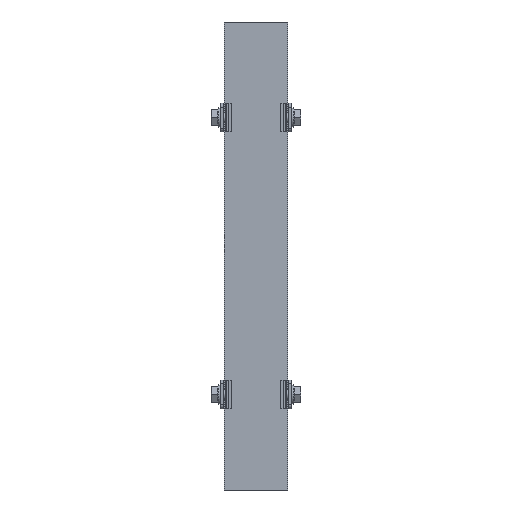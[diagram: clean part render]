
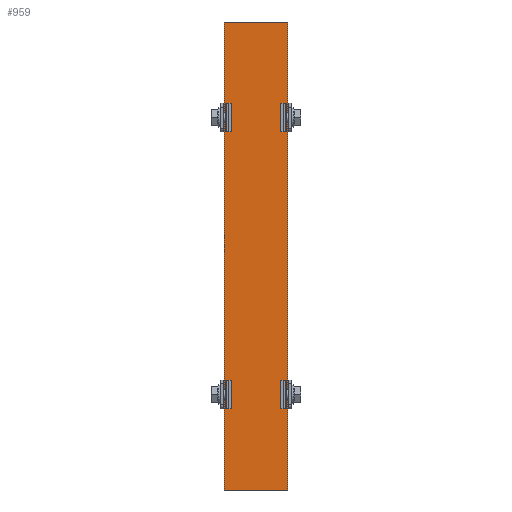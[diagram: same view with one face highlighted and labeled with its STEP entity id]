
A CAD part, front view. The second image highlights one B-rep face of the part: STEP entity #959.
In plain terms, the highlighted planar face has unit normal (0, -1, 0).
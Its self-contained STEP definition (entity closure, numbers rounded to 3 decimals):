
#86=DIRECTION('',(0.,0.,1.));
#87=VECTOR('',#86,245.);
#88=CARTESIAN_POINT('',(-16.6,0.,-122.5));
#89=LINE('',#88,#87);
#93=DIRECTION('',(1.,0.,0.));
#94=VECTOR('',#93,33.2);
#95=CARTESIAN_POINT('',(-16.6,0.,122.5));
#96=LINE('',#95,#94);
#100=DIRECTION('',(0.,0.,-1.));
#101=VECTOR('',#100,245.);
#102=CARTESIAN_POINT('',(16.6,0.,122.5));
#103=LINE('',#102,#101);
#107=DIRECTION('',(-1.,0.,0.));
#108=VECTOR('',#107,33.2);
#109=CARTESIAN_POINT('',(16.6,0.,-122.5));
#110=LINE('',#109,#108);
#808=CARTESIAN_POINT('',(-16.6,0.,-122.5));
#809=CARTESIAN_POINT('',(-16.6,0.,122.5));
#810=VERTEX_POINT('',#808);
#811=VERTEX_POINT('',#809);
#812=CARTESIAN_POINT('',(16.6,0.,122.5));
#813=VERTEX_POINT('',#812);
#814=CARTESIAN_POINT('',(16.6,0.,-122.5));
#815=VERTEX_POINT('',#814);
#944=CARTESIAN_POINT('',(0.,0.,0.));
#945=DIRECTION('',(0.,1.,0.));
#946=DIRECTION('',(1.,0.,0.));
#947=AXIS2_PLACEMENT_3D('',#944,#945,#946);
#948=PLANE('',#947);
#950=ORIENTED_EDGE('',*,*,#949,.T.);
#952=ORIENTED_EDGE('',*,*,#951,.T.);
#954=ORIENTED_EDGE('',*,*,#953,.T.);
#956=ORIENTED_EDGE('',*,*,#955,.T.);
#957=EDGE_LOOP('',(#950,#952,#954,#956));
#958=FACE_OUTER_BOUND('',#957,.F.);
#959=ADVANCED_FACE('',(#958),#948,.F.);
#949=EDGE_CURVE('',#810,#811,#89,.T.);
#951=EDGE_CURVE('',#811,#813,#96,.T.);
#953=EDGE_CURVE('',#813,#815,#103,.T.);
#955=EDGE_CURVE('',#815,#810,#110,.T.);
